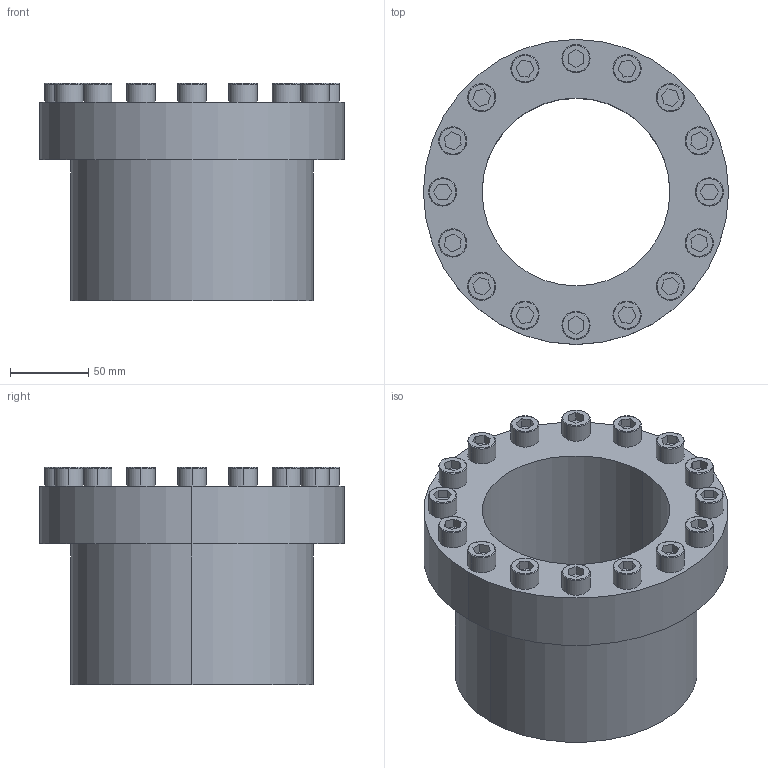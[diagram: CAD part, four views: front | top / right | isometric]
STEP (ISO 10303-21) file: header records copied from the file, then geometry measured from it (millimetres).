
FILE_DESCRIPTION (( 'STEP AP203' ), '1' );
FILE_NAME ('PL-C 120-155.STEP', '2021-10-22T08:47:34', ( '' ), ( '' ), 'SwSTEP 2.0', 'SolidWorks 2018', '' );
FILE_SCHEMA (( 'CONFIG_CONTROL_DESIGN' ));
Length unit declared in the file: millimetre
Products named in the file (1): PL-C 120-155
Bounding box: 195 x 195 x 139 mm (x, y, z)
Volume: 1403003.9 mm3; surface area: 165410.1 mm2
Topology: 1 solids, 1 shells, 201 faces, 466 edges, 300 vertices
Faces by surface type: plane 131, cylinder 38, torus 32
Entity records: 5765 total; most frequent: DIRECTION 1010, CARTESIAN_POINT 968, ORIENTED_EDGE 932, EDGE_CURVE 466, AXIS2_PLACEMENT_3D 342, LINE 326, VECTOR 326, VERTEX_POINT 300
